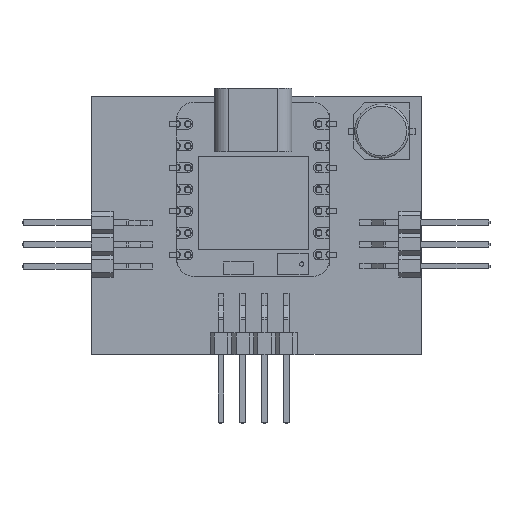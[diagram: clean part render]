
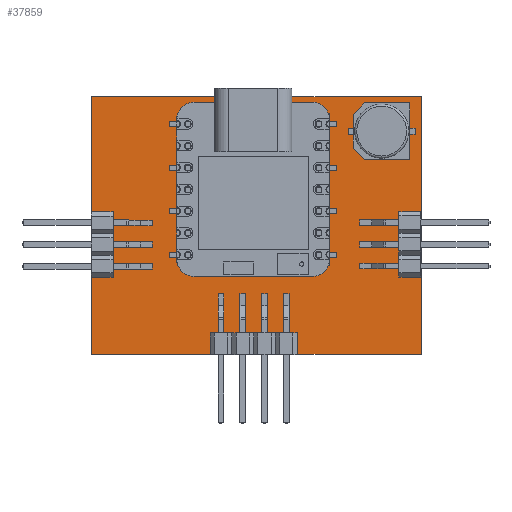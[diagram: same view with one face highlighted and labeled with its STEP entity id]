
A CAD part, top view. The second image highlights one B-rep face of the part: STEP entity #37859.
In plain terms, the highlighted planar face has unit normal (0, 0, 1).
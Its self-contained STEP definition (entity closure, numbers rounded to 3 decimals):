
#37730 = VERTEX_POINT('',#37731);
#37731 = CARTESIAN_POINT('',(163.2,-107.2,1.51));
#37737 = EDGE_CURVE('',#37730,#37738,#37740,.T.);
#37738 = VERTEX_POINT('',#37739);
#37739 = CARTESIAN_POINT('',(124.8,-107.2,1.51));
#37740 = LINE('',#37741,#37742);
#37741 = CARTESIAN_POINT('',(163.2,-107.2,1.51));
#37742 = VECTOR('',#37743,1.);
#37743 = DIRECTION('',(-1.,0.,0.));
#37768 = EDGE_CURVE('',#37738,#37769,#37771,.T.);
#37769 = VERTEX_POINT('',#37770);
#37770 = CARTESIAN_POINT('',(124.8,-77.2,1.51));
#37771 = LINE('',#37772,#37773);
#37772 = CARTESIAN_POINT('',(124.8,-107.2,1.51));
#37773 = VECTOR('',#37774,1.);
#37774 = DIRECTION('',(0.,1.,0.));
#37799 = EDGE_CURVE('',#37769,#37800,#37802,.T.);
#37800 = VERTEX_POINT('',#37801);
#37801 = CARTESIAN_POINT('',(163.2,-77.2,1.51));
#37802 = LINE('',#37803,#37804);
#37803 = CARTESIAN_POINT('',(124.8,-77.2,1.51));
#37804 = VECTOR('',#37805,1.);
#37805 = DIRECTION('',(1.,0.,0.));
#37830 = EDGE_CURVE('',#37800,#37730,#37831,.T.);
#37831 = LINE('',#37832,#37833);
#37832 = CARTESIAN_POINT('',(163.2,-77.2,1.51));
#37833 = VECTOR('',#37834,1.);
#37834 = DIRECTION('',(0.,-1.,0.));
#37859 = ADVANCED_FACE('',(#37860),#37866,.T.);
#37860 = FACE_BOUND('',#37861,.F.);
#37861 = EDGE_LOOP('',(#37862,#37863,#37864,#37865));
#37862 = ORIENTED_EDGE('',*,*,#37737,.T.);
#37863 = ORIENTED_EDGE('',*,*,#37768,.T.);
#37864 = ORIENTED_EDGE('',*,*,#37799,.T.);
#37865 = ORIENTED_EDGE('',*,*,#37830,.T.);
#37866 = PLANE('',#37867);
#37867 = AXIS2_PLACEMENT_3D('',#37868,#37869,#37870);
#37868 = CARTESIAN_POINT('',(0.,0.,1.51));
#37869 = DIRECTION('',(0.,0.,1.));
#37870 = DIRECTION('',(1.,0.,-0.));
